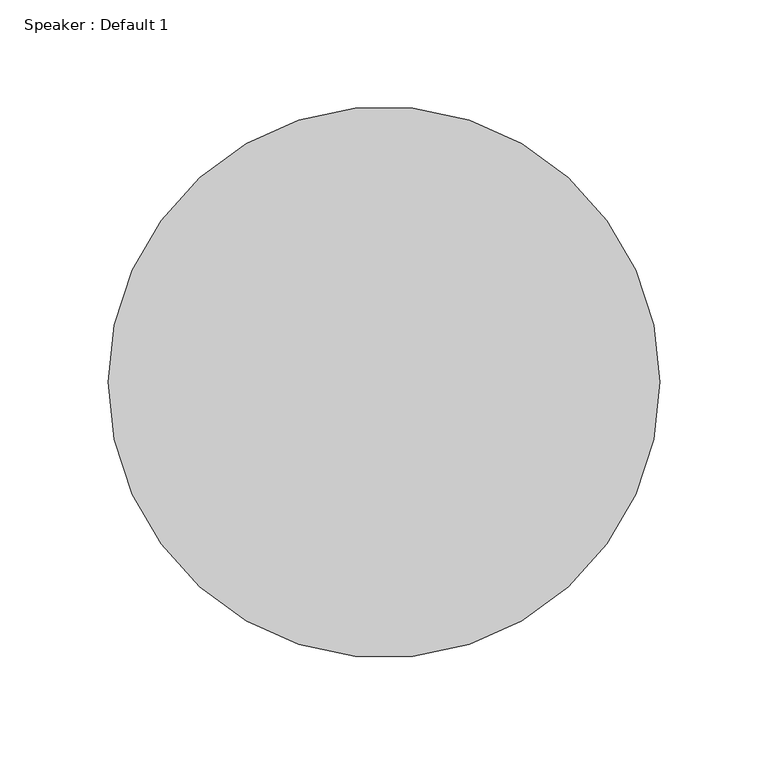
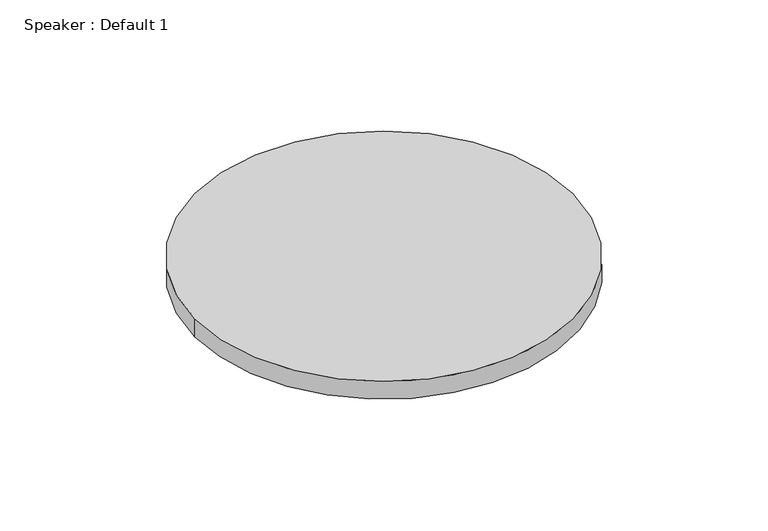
"""IFC4 building model written with IfcOpenShell, lengths in millimetres: proxy geometry, Speaker : Default 1."""

from ifc_helpers import new_model, si_unit, point, frame, origin, origin_2d, place, context, project, spatial, circle_curve, trimmed, segment, composite_curve, outline, extrude, source, transform, mapped, element, save


def speaker_default_1_aa482b27(model_context):
    return source(origin(), model_context, "Body", "SweptSolid", [
        extrude(outline(composite_curve([segment(trimmed(circle_curve(origin_2d(), 127.0), [point((-127.0, 0.0))], [point((127.0, 0.0))], False, "CARTESIAN"), True, "CONTINUOUS"), segment(trimmed(circle_curve(origin_2d(), 127.0), [point((127.0, 0.0))], [point((-127.0, 0.0))], False, "CARTESIAN"), True, "CONTINUOUS")], self_intersect=False)), frame((0.0, 0.0, 2438.4), z_axis=(0.0, 0.0, 1.0), x_axis=(1.0, 0.0, 0.0)), (0.0, 0.0, 1.0), 12.7),
    ])


if __name__ == "__main__":
    model = new_model("IFC4")
    model_context = context("Model", 3, world=origin())
    ifc_project = project(units=[si_unit("LENGTHUNIT", "METRE", prefix="MILLI")], contexts=[model_context])
    site = spatial("IfcSite", under=ifc_project)
    building = spatial("IfcBuilding", under=site)
    placement = place(None, origin())
    speaker_default_1_shape = speaker_default_1_aa482b27(model_context)
    element("IfcBuildingElementProxy", 1, Name="Speaker : Default 1", ObjectType="Speaker : Default 1", at=placement, inside=building, context=model_context, shape_type="MappedRepresentation", body=[
        mapped(speaker_default_1_shape, transform((0.0, 0.0, 0.0), x_axis=(1.0, 0.0, 0.0), y_axis=(0.0, 1.0, 0.0), z_axis=(0.0, 0.0, 1.0))),
    ])
    save(model, "model.ifc")
